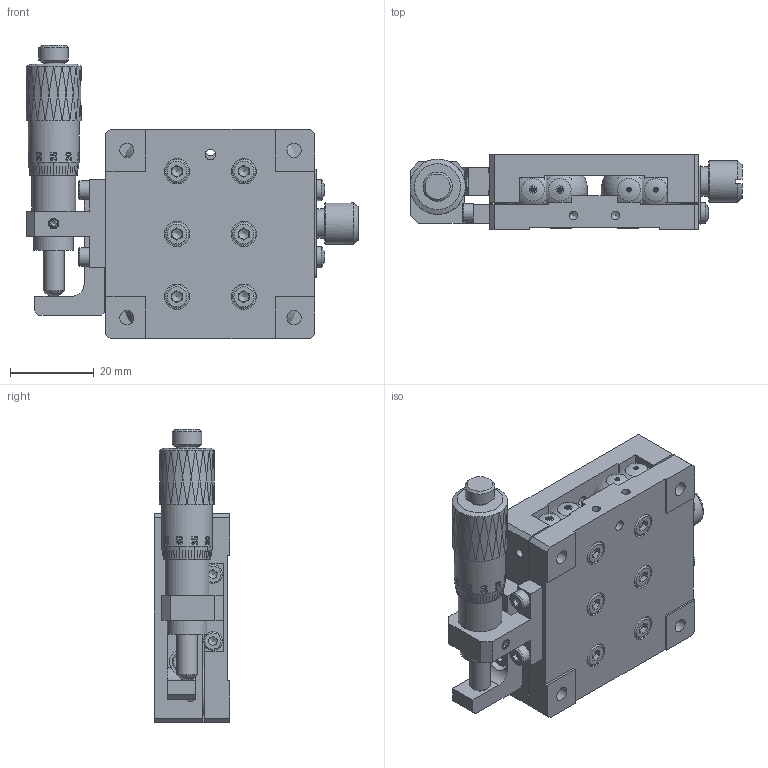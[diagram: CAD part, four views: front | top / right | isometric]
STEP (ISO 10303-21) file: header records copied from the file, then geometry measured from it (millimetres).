
FILE_DESCRIPTION (( 'STEP AP203' ), '1' );
FILE_NAME ('BPTA50.STEP', '2024-07-24T07:39:53', ( 'Windows User' ), ( 'P R C' ), 'SwSTEP 2.0', 'SolidWorks 2024', '' );
FILE_SCHEMA (( 'CONFIG_CONTROL_DESIGN' ));
Length unit declared in the file: millimetre
Products named in the file (1): BPTA50
Bounding box: 79.4 x 18 x 70.1 mm (x, y, z)
Volume: 45375.1 mm3; surface area: 39124.5 mm2
Topology: 43 solids, 43 shells, 1694 faces, 4023 edges, 2561 vertices
Faces by surface type: plane 751, bspline 395, cylinder 299, cone 210, torus 36, sphere 3
Full cylindrical faces by diameter (mm): 2.05 x16, 2.4 x2, 2.5 x19, 2.55 x12, 2.95 x9, 3 x26, 3.1 x2, 3.2 x2, 3.4 x16, 4.4 x12, 4.5 x4, 5 x5, 5.5 x24, 5.8 x2, 6 x16, 7 x2, 8.5 x1, 9.5 x2, 10 x1, 10.5 x1, 12.2 x1
Entity records: 77706 total; most frequent: CARTESIAN_POINT 44148, ORIENTED_EDGE 7154, DIRECTION 5493, EDGE_CURVE 3577, VERTEX_POINT 2444, EDGE_LOOP 2247, AXIS2_PLACEMENT_3D 2101, FACE_OUTER_BOUND 1882
